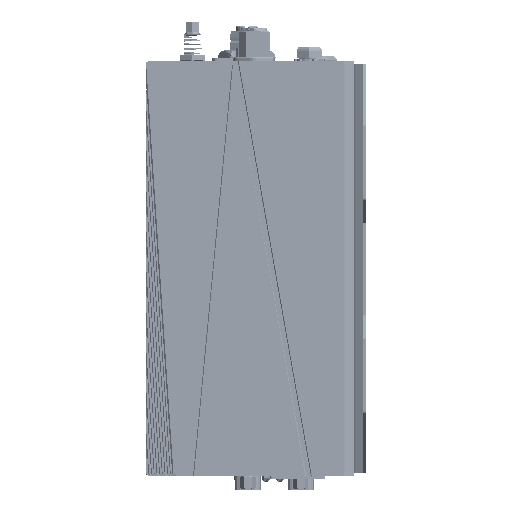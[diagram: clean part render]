
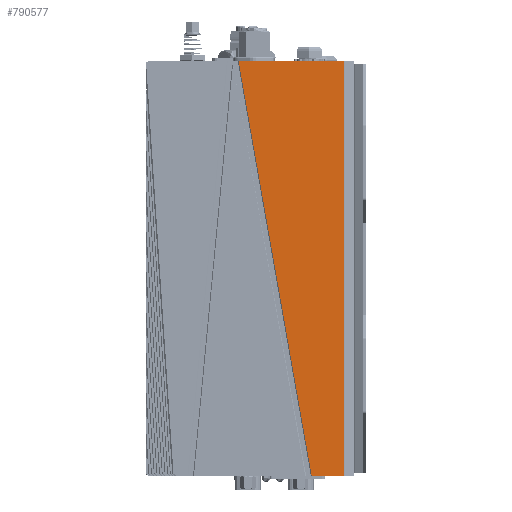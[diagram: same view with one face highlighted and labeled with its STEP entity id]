
A CAD part, left-side view. The second image highlights one B-rep face of the part: STEP entity #790577.
In plain terms, the highlighted planar face has unit normal (1, 0, 0).
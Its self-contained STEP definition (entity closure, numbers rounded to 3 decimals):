
#781927=DIRECTION('',(0.,1.,0.));
#781928=VECTOR('',#781927,38.249);
#781929=CARTESIAN_POINT('',(-125.,-41.097,75.));
#781930=LINE('',#781929,#781928);
#781934=DIRECTION('',(0.,-0.174,-0.985));
#781935=VECTOR('',#781934,152.314);
#781936=CARTESIAN_POINT('',(-125.,-2.848,75.));
#781937=LINE('',#781936,#781935);
#781941=DIRECTION('',(0.,-1.,0.));
#781942=VECTOR('',#781941,11.8);
#781943=CARTESIAN_POINT('',(-125.,-29.298,-75.));
#781944=LINE('',#781943,#781942);
#781955=DIRECTION('',(0.,0.,1.));
#781956=VECTOR('',#781955,150.);
#781957=CARTESIAN_POINT('',(-125.,-41.097,-75.));
#781958=LINE('',#781957,#781956);
#782235=CARTESIAN_POINT('',(-125.,-41.097,-75.));
#782236=VERTEX_POINT('',#782235);
#782237=CARTESIAN_POINT('',(-125.,-29.298,-75.));
#782238=VERTEX_POINT('',#782237);
#783496=CARTESIAN_POINT('',(-125.,-41.097,75.));
#783497=VERTEX_POINT('',#783496);
#783498=CARTESIAN_POINT('',(-125.,-2.848,75.));
#783499=VERTEX_POINT('',#783498);
#790565=CARTESIAN_POINT('',(-125.,-21.973,0.));
#790566=DIRECTION('',(1.,0.,0.));
#790567=DIRECTION('',(0.,-1.,0.));
#790568=AXIS2_PLACEMENT_3D('',#790565,#790566,#790567);
#790569=PLANE('',#790568);
#790571=ORIENTED_EDGE('',*,*,#790570,.T.);
#790572=ORIENTED_EDGE('',*,*,#784234,.T.);
#790573=ORIENTED_EDGE('',*,*,#790559,.T.);
#790574=ORIENTED_EDGE('',*,*,#783753,.T.);
#790575=EDGE_LOOP('',(#790571,#790572,#790573,#790574));
#790576=FACE_OUTER_BOUND('',#790575,.F.);
#783753=EDGE_CURVE('',#782238,#782236,#781944,.T.);
#784234=EDGE_CURVE('',#783497,#783499,#781930,.T.);
#790559=EDGE_CURVE('',#783499,#782238,#781937,.T.);
#790570=EDGE_CURVE('',#782236,#783497,#781958,.T.);
#790577=ADVANCED_FACE('',(#790576),#790569,.T.);
